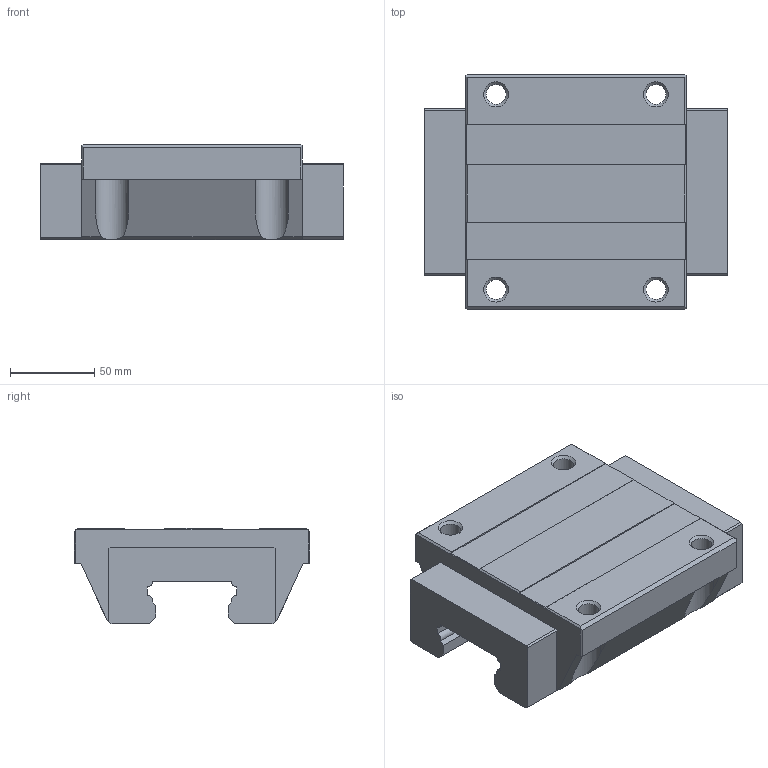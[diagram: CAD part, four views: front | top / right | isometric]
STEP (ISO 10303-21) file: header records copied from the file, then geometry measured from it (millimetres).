
FILE_DESCRIPTION(/* description */ (''),/* implementation_level */ '2;1');
FILE_NAME(/* name */ 'C:\Users\Uso Geral\Desktop\BCH55A PATINS.step',/* time_stamp */ '2014-09-12T13:24:30-03:00',/* author */ ('Uso Geral'),/* organization */ (''),/* preprocessor_version */ 'ST-DEVELOPER v15.2',/* originating_system */ 'Autodesk Inventor 2014',/* authorisation */ '');
FILE_SCHEMA (('AUTOMOTIVE_DESIGN { 1 0 10303 214 3 1 1 }'));
Length unit declared in the file: millimetre
Products named in the file (1): BCH55A PATINS
Bounding box: 180 x 140 x 57 mm (x, y, z)
Volume: 902345.4 mm3; surface area: 88924.4 mm2
Topology: 1 solids, 1 shells, 80 faces, 228 edges, 150 vertices
Faces by surface type: plane 64, cylinder 12, cone 4
Full cylindrical faces by diameter (mm): 11.835 x4
Entity records: 2541 total; most frequent: CARTESIAN_POINT 443, ORIENTED_EDGE 432, DIRECTION 414, EDGE_CURVE 216, LINE 180, VECTOR 180, VERTEX_POINT 146, AXIS2_PLACEMENT_3D 117
